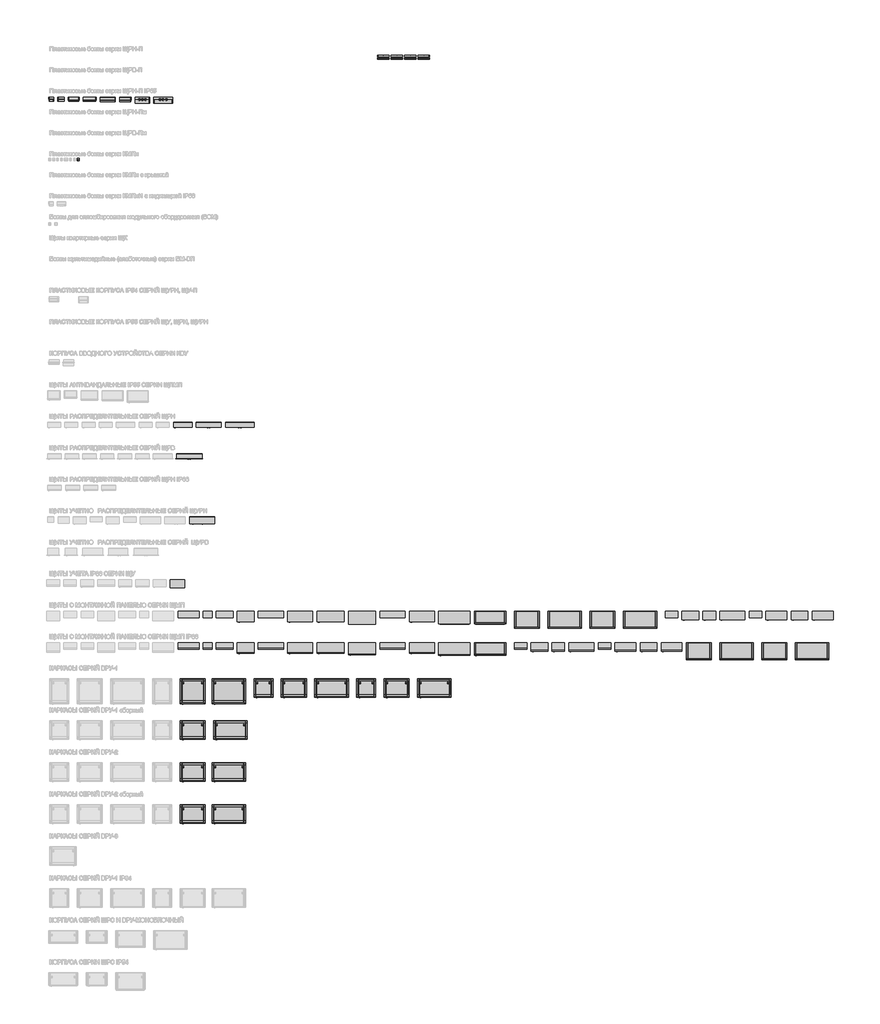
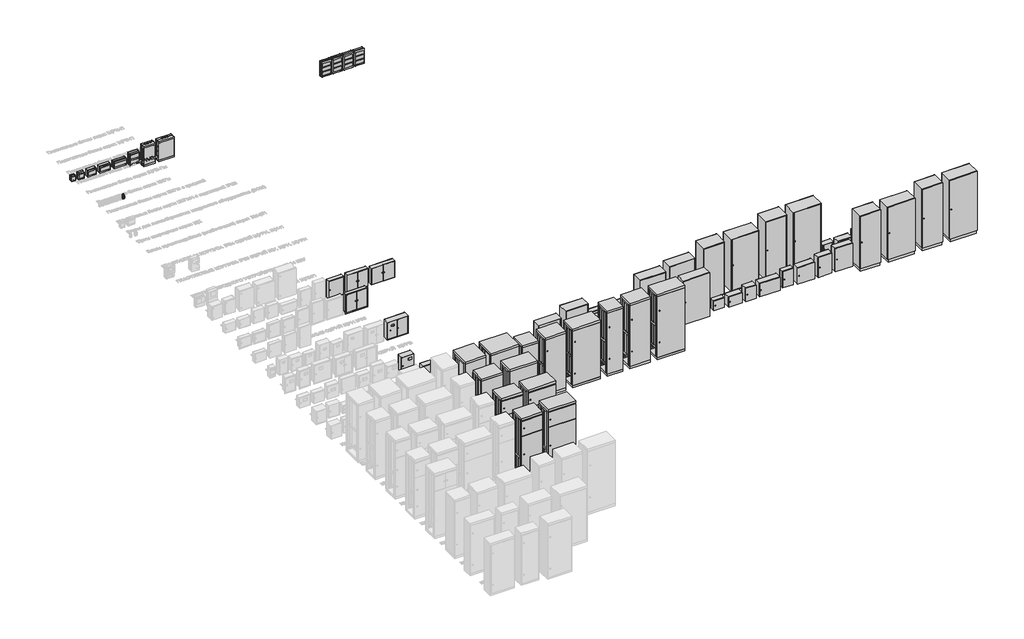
# One storey, part 2 of 25: 81 proxies.
"""IFC4 building model written with IfcOpenShell, lengths in millimetres."""

from ifc_helpers import new_model, si_unit, origin, place, context, project, spatial, transform, mapped, element, save
from components import electrical_equipment_affdbc4a, electrical_equipment_87a8e6b7, electrical_equipment_db0b3651, electrical_equipment_27bbc57b, electrical_equipment_023ecf13, electrical_equipment_e8acea0d, electrical_equipment_999e1e20, electrical_equipment_e3dd529e, electrical_equipment_4f927de0, electrical_equipment_bc0270f2, electrical_equipment_461fbd14, electrical_equipment_4e84e6ac, electrical_equipment_5be1c734, electrical_equipment_68182195, electrical_equipment_46bb506c, electrical_equipment_65a7c867, electrical_equipment_6ca70b5f, electrical_equipment_548c03ec, electrical_equipment_12a4af0d, electrical_equipment_94533aea, electrical_equipment_c0c13337, electrical_equipment_6aa829ec, electrical_equipment_989aeedd, electrical_equipment_f36b6810, electrical_equipment_f44a7fef, electrical_equipment_cb04a2b1, electrical_equipment_87764ce0, electrical_equipment_2b144cbb, electrical_equipment_02008a58, electrical_equipment_f5966138, electrical_equipment_26f1c62e, electrical_equipment_c8e57f9c, electrical_equipment_190d6f64, electrical_equipment_a90ce755, electrical_equipment_6f267fd0, electrical_equipment_063c99c6, electrical_equipment_5025be6f, electrical_equipment_a36ba838, electrical_equipment_4e077a6b, electrical_equipment_c5bccf6a, electrical_equipment_b0966e39, electrical_equipment_ad4c9414, electrical_equipment_0eafc789, electrical_equipment_16379dc4, electrical_equipment_dda69106, electrical_equipment_f1676e8e, electrical_equipment_d7a3c8ac, electrical_equipment_81dbc8a3, electrical_equipment_4ddad07a, electrical_equipment_0ed47aab, electrical_equipment_84ca87c8, electrical_equipment_f4f822a1, electrical_equipment_ed40e2c7, electrical_equipment_3daa919d, electrical_equipment_e6f91f29, electrical_equipment_b855b0b9, electrical_equipment_7cce7357, electrical_equipment_5c7dc840, electrical_equipment_92aeceb9, electrical_equipment_665021a5, electrical_equipment_001f828e, electrical_equipment_2ce05f25, electrical_equipment_1401469c, electrical_equipment_542ff611, electrical_equipment_45d32a1f, electrical_equipment_9a04b312, electrical_equipment_0d211c91, electrical_equipment_934612fc, electrical_equipment_2ab7c5df, electrical_equipment_11ccc84e, electrical_equipment_a8e0ab59, electrical_equipment_fcdb0c0a, electrical_equipment_d48100c6, electrical_equipment_d2c2ee65

model = new_model("IFC4")

# Units and contexts
model_context = context("Model", 3, world=origin())
ifc_project = project(units=[si_unit("LENGTHUNIT", "METRE", prefix="MILLI")], contexts=[model_context])

# Site, building, storey
site = spatial("IfcSite", under=ifc_project)
building = spatial("IfcBuilding", under=site)
storey = spatial("IfcBuildingStorey", under=building, Name="Этаж 01", Elevation=0.0)

# Proxies
placement = place(None, origin())
electrical_equipment_shape = electrical_equipment_affdbc4a(model_context)
element("IfcBuildingElementProxy", 1, Name="ЩРН-П-5_8_IP65 : ЩРН-П-5_IP65", ObjectType="ЩРН-П-5_8_IP65 : ЩРН-П-5_IP65", at=placement, inside=storey, context=model_context, shape_type="MappedRepresentation", body=[
    mapped(electrical_equipment_shape, transform((-19006.3088126, 17436.235284, 0.0), x_axis=(-1.0, 0.0, 0.0), y_axis=(0.0, -1.0, 0.0), z_axis=(0.0, 0.0, 1.0))),
])
electrical_equipment_2_shape = electrical_equipment_87a8e6b7(model_context)
element("IfcBuildingElementProxy", 2, Name="ЩРН-П-5_8_IP65 : ЩРН-П-8_IP65", ObjectType="ЩРН-П-5_8_IP65 : ЩРН-П-8_IP65", at=placement, inside=storey, context=model_context, shape_type="MappedRepresentation", body=[
    mapped(electrical_equipment_2_shape, transform((-18773.8088126, 17436.2788107, 0.0), x_axis=(-1.0, 0.0, 0.0), y_axis=(0.0, -1.0, 0.0), z_axis=(0.0, 0.0, 1.0))),
])
electrical_equipment_3_shape = electrical_equipment_db0b3651(model_context)
element("IfcBuildingElementProxy", 3, Name="ЩРН-П-12_15_IP65 : ЩРН-П-12_IP65", ObjectType="ЩРН-П-12_15_IP65 : ЩРН-П-12_IP65", at=placement, inside=storey, context=model_context, shape_type="MappedRepresentation", body=[
    mapped(electrical_equipment_3_shape, transform((-18472.3088126, 17436.2788107, 0.0), x_axis=(-1.0, 0.0, 0.0), y_axis=(0.0, -1.0, 0.0), z_axis=(0.0, 0.0, 1.0))),
])
electrical_equipment_4_shape = electrical_equipment_27bbc57b(model_context)
element("IfcBuildingElementProxy", 4, Name="ЩРН-П-12_15_IP65 : ЩРН-П-15_IP65", ObjectType="ЩРН-П-12_15_IP65 : ЩРН-П-15_IP65", at=placement, inside=storey, context=model_context, shape_type="MappedRepresentation", body=[
    mapped(electrical_equipment_4_shape, transform((-18094.3088126, 17436.2788107, 0.0), x_axis=(-1.0, 0.0, 0.0), y_axis=(0.0, -1.0, 0.0), z_axis=(0.0, 0.0, 1.0))),
])
electrical_equipment_5_shape = electrical_equipment_023ecf13(model_context)
element("IfcBuildingElementProxy", 5, Name="ЩРН-П-18_24_IP65 : ЩРН-П-18_IP65", ObjectType="ЩРН-П-18_24_IP65 : ЩРН-П-18_IP65", at=placement, inside=storey, context=model_context, shape_type="MappedRepresentation", body=[
    mapped(electrical_equipment_5_shape, transform((-17660.3088126, 17436.2788107, 0.0), x_axis=(-1.0, 0.0, 0.0), y_axis=(0.0, -1.0, 0.0), z_axis=(0.0, 0.0, 1.0))),
])
electrical_equipment_6_shape = electrical_equipment_e8acea0d(model_context)
element("IfcBuildingElementProxy", 6, Name="ЩРН-П-18_24_IP65 : ЩРН-П-24_IP65", ObjectType="ЩРН-П-18_24_IP65 : ЩРН-П-24_IP65", at=placement, inside=storey, context=model_context, shape_type="MappedRepresentation", body=[
    mapped(electrical_equipment_6_shape, transform((-17243.0588126, 17436.2788107, 0.0), x_axis=(-1.0, 0.0, 0.0), y_axis=(0.0, -1.0, 0.0), z_axis=(0.0, 0.0, 1.0))),
])
electrical_equipment_7_shape = electrical_equipment_999e1e20(model_context)
element("IfcBuildingElementProxy", 7, Name="ЩРН-П-36_54_IP65 : ЩРН-П-36_IP65", ObjectType="ЩРН-П-36_54_IP65 : ЩРН-П-36_IP65", at=placement, inside=storey, context=model_context, shape_type="MappedRepresentation", body=[
    mapped(electrical_equipment_7_shape, transform((-16836.8088126, 17436.2788107, 0.0), x_axis=(-1.0, 0.0, 0.0), y_axis=(0.0, -1.0, 0.0), z_axis=(0.0, 0.0, 1.0))),
])
electrical_equipment_8_shape = electrical_equipment_e3dd529e(model_context)
element("IfcBuildingElementProxy", 8, Name="ЩРН-П-36_54_IP65 : ЩРН-П-54_IP65", ObjectType="ЩРН-П-36_54_IP65 : ЩРН-П-54_IP65", at=placement, inside=storey, context=model_context, shape_type="MappedRepresentation", body=[
    mapped(electrical_equipment_8_shape, transform((-16341.8088126, 17436.2788107, 0.0), x_axis=(-1.0, 0.0, 0.0), y_axis=(0.0, -1.0, 0.0), z_axis=(0.0, 0.0, 1.0))),
])
electrical_equipment_9_shape = electrical_equipment_4f927de0(model_context)
element("IfcBuildingElementProxy", 9, Name="ВРУ-1 : ВРУ-1_2000х600х600", ObjectType="ВРУ-1 : ВРУ-1_2000х600х600", at=placement, inside=storey, context=model_context, shape_type="MappedRepresentation", body=[
    mapped(electrical_equipment_9_shape, transform((-15638.0939771, 3586.235284, 0.0), x_axis=(-1.0, 0.0, 0.0), y_axis=(0.0, -1.0, 0.0), z_axis=(0.0, 0.0, 1.0))),
])
electrical_equipment_10_shape = electrical_equipment_bc0270f2(model_context)
element("IfcBuildingElementProxy", 10, Name="ВРУ-1 : ВРУ-1_2000х800х600", ObjectType="ВРУ-1 : ВРУ-1_2000х800х600", at=placement, inside=storey, context=model_context, shape_type="MappedRepresentation", body=[
    mapped(electrical_equipment_10_shape, transform((-14777.2854233, 3586.235284, 0.0), x_axis=(-1.0, 0.0, 0.0), y_axis=(0.0, -1.0, 0.0), z_axis=(0.0, 0.0, 1.0))),
])
electrical_equipment_11_shape = electrical_equipment_461fbd14(model_context)
element("IfcBuildingElementProxy", 11, Name="ВРУ-1 : ВРУ-1_1800х450х450", ObjectType="ВРУ-1 : ВРУ-1_1800х450х450", at=placement, inside=storey, context=model_context, shape_type="MappedRepresentation", body=[
    mapped(electrical_equipment_11_shape, transform((-13952.2786424, 3586.235284, 0.0), x_axis=(-1.0, 0.0, 0.0), y_axis=(0.0, -1.0, 0.0), z_axis=(0.0, 0.0, 1.0))),
])
electrical_equipment_12_shape = electrical_equipment_4e84e6ac(model_context)
element("IfcBuildingElementProxy", 12, Name="ВРУ-1 : ВРУ-1_1800х600х450", ObjectType="ВРУ-1 : ВРУ-1_1800х600х450", at=placement, inside=storey, context=model_context, shape_type="MappedRepresentation", body=[
    mapped(electrical_equipment_12_shape, transform((-13227.2718614, 3586.235284, 0.0), x_axis=(-1.0, 0.0, 0.0), y_axis=(0.0, -1.0, 0.0), z_axis=(0.0, 0.0, 1.0))),
])
electrical_equipment_13_shape = electrical_equipment_5be1c734(model_context)
element("IfcBuildingElementProxy", 13, Name="ВРУ-1 : ВРУ-1_1800х800х450", ObjectType="ВРУ-1 : ВРУ-1_1800х800х450", at=placement, inside=storey, context=model_context, shape_type="MappedRepresentation", body=[
    mapped(electrical_equipment_13_shape, transform((-12327.2650805, 3586.235284, 0.0), x_axis=(-1.0, 0.0, 0.0), y_axis=(0.0, -1.0, 0.0), z_axis=(0.0, 0.0, 1.0))),
])
electrical_equipment_14_shape = electrical_equipment_68182195(model_context)
element("IfcBuildingElementProxy", 14, Name="ВРУ-1 : ВРУ-1_2000х450х450", ObjectType="ВРУ-1 : ВРУ-1_2000х450х450", at=placement, inside=storey, context=model_context, shape_type="MappedRepresentation", body=[
    mapped(electrical_equipment_14_shape, transform((-11502.2582996, 3586.235284, 0.0), x_axis=(-1.0, 0.0, 0.0), y_axis=(0.0, -1.0, 0.0), z_axis=(0.0, 0.0, 1.0))),
])
electrical_equipment_15_shape = electrical_equipment_46bb506c(model_context)
element("IfcBuildingElementProxy", 15, Name="ВРУ-1 : ВРУ-1_2000х600х450", ObjectType="ВРУ-1 : ВРУ-1_2000х600х450", at=placement, inside=storey, context=model_context, shape_type="MappedRepresentation", body=[
    mapped(electrical_equipment_15_shape, transform((-10777.2515187, 3586.235284, 0.0), x_axis=(-1.0, 0.0, 0.0), y_axis=(0.0, -1.0, 0.0), z_axis=(0.0, 0.0, 1.0))),
])
electrical_equipment_16_shape = electrical_equipment_65a7c867(model_context)
element("IfcBuildingElementProxy", 16, Name="ВРУ-1 : ВРУ-1_2000х800х450", ObjectType="ВРУ-1 : ВРУ-1_2000х800х450", at=placement, inside=storey, context=model_context, shape_type="MappedRepresentation", body=[
    mapped(electrical_equipment_16_shape, transform((-9877.2447378, 3586.235284, 0.0), x_axis=(-1.0, 0.0, 0.0), y_axis=(0.0, -1.0, 0.0), z_axis=(0.0, 0.0, 1.0))),
])
element("IfcBuildingElementProxy", 17, Name="ВРУ-1_сборный : ВРУ-1_2000х600х450", ObjectType="ВРУ-1_сборный : ВРУ-1_2000х600х450", at=placement, inside=storey, context=model_context, shape_type="MappedRepresentation", body=[
    mapped(electrical_equipment_15_shape, transform((-15638.0939771, 2586.235284, 0.0), x_axis=(-1.0, 0.0, 0.0), y_axis=(0.0, -1.0, 0.0), z_axis=(0.0, 0.0, 1.0))),
])
element("IfcBuildingElementProxy", 18, Name="ВРУ-1_сборный : ВРУ-1_2000х800х450", ObjectType="ВРУ-1_сборный : ВРУ-1_2000х800х450", at=placement, inside=storey, context=model_context, shape_type="MappedRepresentation", body=[
    mapped(electrical_equipment_16_shape, transform((-14738.0871962, 2586.235284, 0.0), x_axis=(-1.0, 0.0, 0.0), y_axis=(0.0, -1.0, 0.0), z_axis=(0.0, 0.0, 1.0))),
])
electrical_equipment_17_shape = electrical_equipment_6ca70b5f(model_context)
element("IfcBuildingElementProxy", 19, Name="ВРУ-2 : ВРУ-2_2000х600х450", ObjectType="ВРУ-2 : ВРУ-2_2000х600х450", at=placement, inside=storey, context=model_context, shape_type="MappedRepresentation", body=[
    mapped(electrical_equipment_17_shape, transform((-15638.0939771, 1586.251492, 0.0), x_axis=(-1.0, 0.0, 0.0), y_axis=(0.0, -1.0, 0.0), z_axis=(0.0, 0.0, 1.0))),
])
electrical_equipment_18_shape = electrical_equipment_548c03ec(model_context)
element("IfcBuildingElementProxy", 20, Name="ВРУ-2 : ВРУ-2_2000х800х450", ObjectType="ВРУ-2 : ВРУ-2_2000х800х450", at=placement, inside=storey, context=model_context, shape_type="MappedRepresentation", body=[
    mapped(electrical_equipment_18_shape, transform((-14777.2854233, 1586.251492, 0.0), x_axis=(-1.0, 0.0, 0.0), y_axis=(0.0, -1.0, 0.0), z_axis=(0.0, 0.0, 1.0))),
])
element("IfcBuildingElementProxy", 21, Name="ВРУ-2_сборный : ВРУ-2 сборный_2000х600х450", ObjectType="ВРУ-2_сборный : ВРУ-2 сборный_2000х600х450", at=placement, inside=storey, context=model_context, shape_type="MappedRepresentation", body=[
    mapped(electrical_equipment_17_shape, transform((-15638.0939771, 586.235284, 0.0), x_axis=(-1.0, 0.0, 0.0), y_axis=(0.0, -1.0, 0.0), z_axis=(0.0, 0.0, 1.0))),
])
element("IfcBuildingElementProxy", 22, Name="ВРУ-2_сборный : ВРУ-2 сборный_2000х800х450", ObjectType="ВРУ-2_сборный : ВРУ-2 сборный_2000х800х450", at=placement, inside=storey, context=model_context, shape_type="MappedRepresentation", body=[
    mapped(electrical_equipment_18_shape, transform((-14777.2854233, 586.235284, 0.0), x_axis=(-1.0, 0.0, 0.0), y_axis=(0.0, -1.0, 0.0), z_axis=(0.0, 0.0, 1.0))),
])
electrical_equipment_19_shape = electrical_equipment_12a4af0d(model_context)
element("IfcBuildingElementProxy", 23, Name="ЩМП : ЩМП-3-1_650х500х150", ObjectType="ЩМП : ЩМП-3-1_650х500х150", at=placement, inside=storey, context=model_context, shape_type="MappedRepresentation", body=[
    mapped(electrical_equipment_19_shape, transform((-15735.3755004, 5186.235284, 0.0), x_axis=(-1.0, 0.0, 0.0), y_axis=(0.0, -1.0, 0.0), z_axis=(0.0, 0.0, 1.0))),
])
electrical_equipment_20_shape = electrical_equipment_94533aea(model_context)
element("IfcBuildingElementProxy", 24, Name="ЩМП : ЩМП-4.2.1-0_400х210х150", ObjectType="ЩМП : ЩМП-4.2.1-0_400х210х150", at=placement, inside=storey, context=model_context, shape_type="MappedRepresentation", body=[
    mapped(electrical_equipment_20_shape, transform((-15280.3755004, 5186.235284, 0.0), x_axis=(-1.0, 0.0, 0.0), y_axis=(0.0, -1.0, 0.0), z_axis=(0.0, 0.0, 1.0))),
])
electrical_equipment_21_shape = electrical_equipment_c0c13337(model_context)
element("IfcBuildingElementProxy", 25, Name="ЩМП : ЩМП-4.4.1-0_400х400х150", ObjectType="ЩМП : ЩМП-4.4.1-0_400х400х150", at=placement, inside=storey, context=model_context, shape_type="MappedRepresentation", body=[
    mapped(electrical_equipment_21_shape, transform((-14875.3755004, 5186.235284, 0.0), x_axis=(-1.0, 0.0, 0.0), y_axis=(0.0, -1.0, 0.0), z_axis=(0.0, 0.0, 1.0))),
])
electrical_equipment_22_shape = electrical_equipment_6aa829ec(model_context)
element("IfcBuildingElementProxy", 26, Name="ЩМП : ЩМП-4.4.2-0_400х400х250", ObjectType="ЩМП : ЩМП-4.4.2-0_400х400х250", at=placement, inside=storey, context=model_context, shape_type="MappedRepresentation", body=[
    mapped(electrical_equipment_22_shape, transform((-14375.3755004, 5186.235284, 0.0), x_axis=(-1.0, 0.0, 0.0), y_axis=(0.0, -1.0, 0.0), z_axis=(0.0, 0.0, 1.0))),
])
electrical_equipment_23_shape = electrical_equipment_989aeedd(model_context)
element("IfcBuildingElementProxy", 27, Name="ЩМП : ЩМП-4.6.1-0_400х600х150", ObjectType="ЩМП : ЩМП-4.6.1-0_400х600х150", at=placement, inside=storey, context=model_context, shape_type="MappedRepresentation", body=[
    mapped(electrical_equipment_23_shape, transform((-13775.3755004, 5186.235284, 0.0), x_axis=(-1.0, 0.0, 0.0), y_axis=(0.0, -1.0, 0.0), z_axis=(0.0, 0.0, 1.0))),
])
electrical_equipment_24_shape = electrical_equipment_f36b6810(model_context)
element("IfcBuildingElementProxy", 28, Name="ЩМП : ЩМП-4.6.2-0_400х600х250", ObjectType="ЩМП : ЩМП-4.6.2-0_400х600х250", at=placement, inside=storey, context=model_context, shape_type="MappedRepresentation", body=[
    mapped(electrical_equipment_24_shape, transform((-13075.3755004, 5186.235284, 0.0), x_axis=(-1.0, 0.0, 0.0), y_axis=(0.0, -1.0, 0.0), z_axis=(0.0, 0.0, 1.0))),
])
electrical_equipment_25_shape = electrical_equipment_f44a7fef(model_context)
element("IfcBuildingElementProxy", 29, Name="ЩМП : ЩМП-4-0_800х650х250", ObjectType="ЩМП : ЩМП-4-0_800х650х250", at=placement, inside=storey, context=model_context, shape_type="MappedRepresentation", body=[
    mapped(electrical_equipment_25_shape, transform((-12350.3755004, 5186.235284, 0.0), x_axis=(-1.0, 0.0, 0.0), y_axis=(0.0, -1.0, 0.0), z_axis=(0.0, 0.0, 1.0))),
])
electrical_equipment_26_shape = electrical_equipment_cb04a2b1(model_context)
element("IfcBuildingElementProxy", 30, Name="ЩМП : ЩМП-5-0_1000х650х300", ObjectType="ЩМП : ЩМП-5-0_1000х650х300", at=placement, inside=storey, context=model_context, shape_type="MappedRepresentation", body=[
    mapped(electrical_equipment_26_shape, transform((-11600.3755004, 5186.235284, 0.0), x_axis=(-1.0, 0.0, 0.0), y_axis=(0.0, -1.0, 0.0), z_axis=(0.0, 0.0, 1.0))),
])
electrical_equipment_27_shape = electrical_equipment_87764ce0(model_context)
element("IfcBuildingElementProxy", 31, Name="ЩМП : ЩМП-6.6.1-0_600х600х150", ObjectType="ЩМП : ЩМП-6.6.1-0_600х600х150", at=placement, inside=storey, context=model_context, shape_type="MappedRepresentation", body=[
    mapped(electrical_equipment_27_shape, transform((-10875.3755004, 5186.235284, 0.0), x_axis=(-1.0, 0.0, 0.0), y_axis=(0.0, -1.0, 0.0), z_axis=(0.0, 0.0, 1.0))),
])
electrical_equipment_28_shape = electrical_equipment_2b144cbb(model_context)
element("IfcBuildingElementProxy", 32, Name="ЩМП : ЩМП-6.6.2-0_600х600х250", ObjectType="ЩМП : ЩМП-6.6.2-0_600х600х250", at=placement, inside=storey, context=model_context, shape_type="MappedRepresentation", body=[
    mapped(electrical_equipment_28_shape, transform((-10175.3755004, 5186.235284, 0.0), x_axis=(-1.0, 0.0, 0.0), y_axis=(0.0, -1.0, 0.0), z_axis=(0.0, 0.0, 1.0))),
])
electrical_equipment_29_shape = electrical_equipment_02008a58(model_context)
element("IfcBuildingElementProxy", 33, Name="ЩМП : ЩМП-6-0_1200х750х300", ObjectType="ЩМП : ЩМП-6-0_1200х750х300", at=placement, inside=storey, context=model_context, shape_type="MappedRepresentation", body=[
    mapped(electrical_equipment_29_shape, transform((-9400.3755004, 5186.235284, 0.0), x_axis=(-1.0, 0.0, 0.0), y_axis=(0.0, -1.0, 0.0), z_axis=(0.0, 0.0, 1.0))),
])
electrical_equipment_30_shape = electrical_equipment_f5966138(model_context)
element("IfcBuildingElementProxy", 34, Name="ЩМП : ЩМП-7-0_1320х750х300", ObjectType="ЩМП : ЩМП-7-0_1320х750х300", at=placement, inside=storey, context=model_context, shape_type="MappedRepresentation", body=[
    mapped(electrical_equipment_30_shape, transform((-8550.3755004, 5186.235284, 0.0), x_axis=(-1.0, 0.0, 0.0), y_axis=(0.0, -1.0, 0.0), z_axis=(0.0, 0.0, 1.0))),
])
electrical_equipment_31_shape = electrical_equipment_26f1c62e(model_context)
element("IfcBuildingElementProxy", 35, Name="ЩМП : ЩМП-16.6.4-0_1600х600х400", ObjectType="ЩМП : ЩМП-16.6.4-0_1600х600х400", at=placement, inside=storey, context=model_context, shape_type="MappedRepresentation", body=[
    mapped(electrical_equipment_31_shape, transform((-7675.3755004, 5186.235284, 0.0), x_axis=(-1.0, 0.0, 0.0), y_axis=(0.0, -1.0, 0.0), z_axis=(0.0, 0.0, 1.0))),
])
electrical_equipment_32_shape = electrical_equipment_c8e57f9c(model_context)
element("IfcBuildingElementProxy", 36, Name="ЩМП : ЩМП-16.8.4-0_1600х800х400", ObjectType="ЩМП : ЩМП-16.8.4-0_1600х800х400", at=placement, inside=storey, context=model_context, shape_type="MappedRepresentation", body=[
    mapped(electrical_equipment_32_shape, transform((-6775.3755004, 5186.235284, 0.0), x_axis=(-1.0, 0.0, 0.0), y_axis=(0.0, -1.0, 0.0), z_axis=(0.0, 0.0, 1.0))),
])
electrical_equipment_33_shape = electrical_equipment_190d6f64(model_context)
element("IfcBuildingElementProxy", 37, Name="ЩМП : ЩМП-18.6.4-0_1800х600х400", ObjectType="ЩМП : ЩМП-18.6.4-0_1800х600х400", at=placement, inside=storey, context=model_context, shape_type="MappedRepresentation", body=[
    mapped(electrical_equipment_33_shape, transform((-5875.3755004, 5186.235284, 0.0), x_axis=(-1.0, 0.0, 0.0), y_axis=(0.0, -1.0, 0.0), z_axis=(0.0, 0.0, 1.0))),
])
electrical_equipment_34_shape = electrical_equipment_a90ce755(model_context)
element("IfcBuildingElementProxy", 38, Name="ЩМП : ЩМП-18.8.4-0_1800х800х400", ObjectType="ЩМП : ЩМП-18.8.4-0_1800х800х400", at=placement, inside=storey, context=model_context, shape_type="MappedRepresentation", body=[
    mapped(electrical_equipment_34_shape, transform((-4975.3755004, 5186.235284, 0.0), x_axis=(-1.0, 0.0, 0.0), y_axis=(0.0, -1.0, 0.0), z_axis=(0.0, 0.0, 1.0))),
])
electrical_equipment_35_shape = electrical_equipment_6f267fd0(model_context)
element("IfcBuildingElementProxy", 39, Name="ЩМП : ЩМП-3.3.15_300х300х150", ObjectType="ЩМП : ЩМП-3.3.15_300х300х150", at=placement, inside=storey, context=model_context, shape_type="MappedRepresentation", body=[
    mapped(electrical_equipment_35_shape, transform((-4225.3755004, 5186.235284, 0.0), x_axis=(-1.0, 0.0, 0.0), y_axis=(0.0, -1.0, 0.0), z_axis=(0.0, 0.0, 1.0))),
])
electrical_equipment_36_shape = electrical_equipment_063c99c6(model_context)
element("IfcBuildingElementProxy", 40, Name="ЩМП : ЩМП-3.4.2-0_300х400х200", ObjectType="ЩМП : ЩМП-3.4.2-0_300х400х200", at=placement, inside=storey, context=model_context, shape_type="MappedRepresentation", body=[
    mapped(electrical_equipment_36_shape, transform((-3775.3755004, 5186.235284, 0.0), x_axis=(-1.0, 0.0, 0.0), y_axis=(0.0, -1.0, 0.0), z_axis=(0.0, 0.0, 1.0))),
])
electrical_equipment_37_shape = electrical_equipment_5025be6f(model_context)
element("IfcBuildingElementProxy", 41, Name="ЩМП : ЩМП-4.3.2-0_400х300х200", ObjectType="ЩМП : ЩМП-4.3.2-0_400х300х200", at=placement, inside=storey, context=model_context, shape_type="MappedRepresentation", body=[
    mapped(electrical_equipment_37_shape, transform((-3325.3755004, 5186.235284, 0.0), x_axis=(-1.0, 0.0, 0.0), y_axis=(0.0, -1.0, 0.0), z_axis=(0.0, 0.0, 1.0))),
])
electrical_equipment_38_shape = electrical_equipment_a36ba838(model_context)
element("IfcBuildingElementProxy", 42, Name="ЩМП : ЩМП-4.6.2_400х600х200", ObjectType="ЩМП : ЩМП-4.6.2_400х600х200", at=placement, inside=storey, context=model_context, shape_type="MappedRepresentation", body=[
    mapped(electrical_equipment_38_shape, transform((-2775.3755004, 5186.235284, 0.0), x_axis=(-1.0, 0.0, 0.0), y_axis=(0.0, -1.0, 0.0), z_axis=(0.0, 0.0, 1.0))),
])
electrical_equipment_39_shape = electrical_equipment_4e077a6b(model_context)
element("IfcBuildingElementProxy", 43, Name="ЩМП : ЩМП-5.3.15_500х300х150", ObjectType="ЩМП : ЩМП-5.3.15_500х300х150", at=placement, inside=storey, context=model_context, shape_type="MappedRepresentation", body=[
    mapped(electrical_equipment_39_shape, transform((-2225.3755004, 5186.235284, 0.0), x_axis=(-1.0, 0.0, 0.0), y_axis=(0.0, -1.0, 0.0), z_axis=(0.0, 0.0, 1.0))),
])
electrical_equipment_40_shape = electrical_equipment_c5bccf6a(model_context)
element("IfcBuildingElementProxy", 44, Name="ЩМП : ЩМП-5.5.2_500х500х200", ObjectType="ЩМП : ЩМП-5.5.2_500х500х200", at=placement, inside=storey, context=model_context, shape_type="MappedRepresentation", body=[
    mapped(electrical_equipment_40_shape, transform((-1725.3755004, 5186.235284, 0.0), x_axis=(-1.0, 0.0, 0.0), y_axis=(0.0, -1.0, 0.0), z_axis=(0.0, 0.0, 1.0))),
])
electrical_equipment_41_shape = electrical_equipment_b0966e39(model_context)
element("IfcBuildingElementProxy", 45, Name="ЩМП : ЩМП-6.4.2_600х400х200", ObjectType="ЩМП : ЩМП-6.4.2_600х400х200", at=placement, inside=storey, context=model_context, shape_type="MappedRepresentation", body=[
    mapped(electrical_equipment_41_shape, transform((-1175.3755004, 5186.235284, 0.0), x_axis=(-1.0, 0.0, 0.0), y_axis=(0.0, -1.0, 0.0), z_axis=(0.0, 0.0, 1.0))),
])
electrical_equipment_42_shape = electrical_equipment_ad4c9414(model_context)
element("IfcBuildingElementProxy", 46, Name="ЩМП : ЩМП-7.5.2_700х500х200", ObjectType="ЩМП : ЩМП-7.5.2_700х500х200", at=placement, inside=storey, context=model_context, shape_type="MappedRepresentation", body=[
    mapped(electrical_equipment_42_shape, transform((-625.3755004, 5186.235284, 0.0), x_axis=(-1.0, 0.0, 0.0), y_axis=(0.0, -1.0, 0.0), z_axis=(0.0, 0.0, 1.0))),
])
electrical_equipment_43_shape = electrical_equipment_0eafc789(model_context)
element("IfcBuildingElementProxy", 47, Name="ЩМП_IP65 : ЩМП-3-1_650х500х150", ObjectType="ЩМП_IP65 : ЩМП-3-1_650х500х150", at=placement, inside=storey, context=model_context, shape_type="MappedRepresentation", body=[
    mapped(electrical_equipment_43_shape, transform((-15735.3755004, 4436.235284, 0.0), x_axis=(-1.0, 0.0, 0.0), y_axis=(0.0, -1.0, 0.0), z_axis=(0.0, 0.0, 1.0))),
])
electrical_equipment_44_shape = electrical_equipment_16379dc4(model_context)
element("IfcBuildingElementProxy", 48, Name="ЩМП_IP65 : ЩМП-4.2.1-0_400х210х150", ObjectType="ЩМП_IP65 : ЩМП-4.2.1-0_400х210х150", at=placement, inside=storey, context=model_context, shape_type="MappedRepresentation", body=[
    mapped(electrical_equipment_44_shape, transform((-15280.3755004, 4436.235284, 0.0), x_axis=(-1.0, 0.0, 0.0), y_axis=(0.0, -1.0, 0.0), z_axis=(0.0, 0.0, 1.0))),
])
electrical_equipment_45_shape = electrical_equipment_dda69106(model_context)
element("IfcBuildingElementProxy", 49, Name="ЩМП_IP65 : ЩМП-4.4.1-0_400х400х150", ObjectType="ЩМП_IP65 : ЩМП-4.4.1-0_400х400х150", at=placement, inside=storey, context=model_context, shape_type="MappedRepresentation", body=[
    mapped(electrical_equipment_45_shape, transform((-14875.3755004, 4436.235284, 0.0), x_axis=(-1.0, 0.0, 0.0), y_axis=(0.0, -1.0, 0.0), z_axis=(0.0, 0.0, 1.0))),
])
electrical_equipment_46_shape = electrical_equipment_f1676e8e(model_context)
element("IfcBuildingElementProxy", 50, Name="ЩМП_IP65 : ЩМП-4.4.2-0_400х400х250", ObjectType="ЩМП_IP65 : ЩМП-4.4.2-0_400х400х250", at=placement, inside=storey, context=model_context, shape_type="MappedRepresentation", body=[
    mapped(electrical_equipment_46_shape, transform((-14375.3755004, 4436.235284, 0.0), x_axis=(-1.0, 0.0, 0.0), y_axis=(0.0, -1.0, 0.0), z_axis=(0.0, 0.0, 1.0))),
])
electrical_equipment_47_shape = electrical_equipment_d7a3c8ac(model_context)
element("IfcBuildingElementProxy", 51, Name="ЩМП_IP65 : ЩМП-4.6.1-0_400х600х150", ObjectType="ЩМП_IP65 : ЩМП-4.6.1-0_400х600х150", at=placement, inside=storey, context=model_context, shape_type="MappedRepresentation", body=[
    mapped(electrical_equipment_47_shape, transform((-13775.3755004, 4436.235284, 0.0), x_axis=(-1.0, 0.0, 0.0), y_axis=(0.0, -1.0, 0.0), z_axis=(0.0, 0.0, 1.0))),
])
electrical_equipment_48_shape = electrical_equipment_81dbc8a3(model_context)
element("IfcBuildingElementProxy", 52, Name="ЩМП_IP65 : ЩМП-4.6.2-0_400х600х250", ObjectType="ЩМП_IP65 : ЩМП-4.6.2-0_400х600х250", at=placement, inside=storey, context=model_context, shape_type="MappedRepresentation", body=[
    mapped(electrical_equipment_48_shape, transform((-13075.3755004, 4436.235284, 0.0), x_axis=(-1.0, 0.0, 0.0), y_axis=(0.0, -1.0, 0.0), z_axis=(0.0, 0.0, 1.0))),
])
electrical_equipment_49_shape = electrical_equipment_4ddad07a(model_context)
element("IfcBuildingElementProxy", 53, Name="ЩМП_IP65 : ЩМП-4-0_800х650х250", ObjectType="ЩМП_IP65 : ЩМП-4-0_800х650х250", at=placement, inside=storey, context=model_context, shape_type="MappedRepresentation", body=[
    mapped(electrical_equipment_49_shape, transform((-12350.3755004, 4436.235284, 0.0), x_axis=(-1.0, 0.0, 0.0), y_axis=(0.0, -1.0, 0.0), z_axis=(0.0, 0.0, 1.0))),
])
electrical_equipment_50_shape = electrical_equipment_0ed47aab(model_context)
element("IfcBuildingElementProxy", 54, Name="ЩМП_IP65 : ЩМП-5-0_1000х650х285", ObjectType="ЩМП_IP65 : ЩМП-5-0_1000х650х285", at=placement, inside=storey, context=model_context, shape_type="MappedRepresentation", body=[
    mapped(electrical_equipment_50_shape, transform((-11600.3755004, 4436.235284, 0.0), x_axis=(-1.0, 0.0, 0.0), y_axis=(0.0, -1.0, 0.0), z_axis=(0.0, 0.0, 1.0))),
])
electrical_equipment_51_shape = electrical_equipment_84ca87c8(model_context)
element("IfcBuildingElementProxy", 55, Name="ЩМП_IP65 : ЩМП-6.6.1-0_600х600х150", ObjectType="ЩМП_IP65 : ЩМП-6.6.1-0_600х600х150", at=placement, inside=storey, context=model_context, shape_type="MappedRepresentation", body=[
    mapped(electrical_equipment_51_shape, transform((-10875.3755004, 4436.235284, 0.0), x_axis=(-1.0, 0.0, 0.0), y_axis=(0.0, -1.0, 0.0), z_axis=(0.0, 0.0, 1.0))),
])
electrical_equipment_52_shape = electrical_equipment_f4f822a1(model_context)
element("IfcBuildingElementProxy", 56, Name="ЩМП_IP65 : ЩМП-6.6.2-0_600х600х250", ObjectType="ЩМП_IP65 : ЩМП-6.6.2-0_600х600х250", at=placement, inside=storey, context=model_context, shape_type="MappedRepresentation", body=[
    mapped(electrical_equipment_52_shape, transform((-10175.3755004, 4436.235284, 0.0), x_axis=(-1.0, 0.0, 0.0), y_axis=(0.0, -1.0, 0.0), z_axis=(0.0, 0.0, 1.0))),
])
electrical_equipment_53_shape = electrical_equipment_ed40e2c7(model_context)
element("IfcBuildingElementProxy", 57, Name="ЩМП_IP65 : ЩМП-6-0_1200х750х300", ObjectType="ЩМП_IP65 : ЩМП-6-0_1200х750х300", at=placement, inside=storey, context=model_context, shape_type="MappedRepresentation", body=[
    mapped(electrical_equipment_53_shape, transform((-9400.3755004, 4436.235284, 0.0), x_axis=(-1.0, 0.0, 0.0), y_axis=(0.0, -1.0, 0.0), z_axis=(0.0, 0.0, 1.0))),
])
electrical_equipment_54_shape = electrical_equipment_3daa919d(model_context)
element("IfcBuildingElementProxy", 58, Name="ЩМП_IP65 : ЩМП-7-0_1320х750х300", ObjectType="ЩМП_IP65 : ЩМП-7-0_1320х750х300", at=placement, inside=storey, context=model_context, shape_type="MappedRepresentation", body=[
    mapped(electrical_equipment_54_shape, transform((-8550.3755004, 4436.235284, 0.0), x_axis=(-1.0, 0.0, 0.0), y_axis=(0.0, -1.0, 0.0), z_axis=(0.0, 0.0, 1.0))),
])
electrical_equipment_55_shape = electrical_equipment_e6f91f29(model_context)
element("IfcBuildingElementProxy", 59, Name="ЩМП_IP65 : ЩМП-16.6.4-0_1600х600х400", ObjectType="ЩМП_IP65 : ЩМП-16.6.4-0_1600х600х400", at=placement, inside=storey, context=model_context, shape_type="MappedRepresentation", body=[
    mapped(electrical_equipment_55_shape, transform((-3575.37211, 4436.235284, 0.0), x_axis=(-1.0, 0.0, 0.0), y_axis=(0.0, -1.0, 0.0), z_axis=(0.0, 0.0, 1.0))),
])
electrical_equipment_56_shape = electrical_equipment_b855b0b9(model_context)
element("IfcBuildingElementProxy", 60, Name="ЩМП_IP65 : ЩМП-16.8.4-0_1600х800х400", ObjectType="ЩМП_IP65 : ЩМП-16.8.4-0_1600х800х400", at=placement, inside=storey, context=model_context, shape_type="MappedRepresentation", body=[
    mapped(electrical_equipment_56_shape, transform((-2675.37211, 4436.235284, 0.0), x_axis=(-1.0, 0.0, 0.0), y_axis=(0.0, -1.0, 0.0), z_axis=(0.0, 0.0, 1.0))),
])
electrical_equipment_57_shape = electrical_equipment_7cce7357(model_context)
element("IfcBuildingElementProxy", 61, Name="ЩМП_IP65 : ЩМП-18.6.4-0_1800х600х400", ObjectType="ЩМП_IP65 : ЩМП-18.6.4-0_1800х600х400", at=placement, inside=storey, context=model_context, shape_type="MappedRepresentation", body=[
    mapped(electrical_equipment_57_shape, transform((-1775.37211, 4436.235284, 0.0), x_axis=(-1.0, 0.0, 0.0), y_axis=(0.0, -1.0, 0.0), z_axis=(0.0, 0.0, 1.0))),
])
electrical_equipment_58_shape = electrical_equipment_5c7dc840(model_context)
element("IfcBuildingElementProxy", 62, Name="ЩМП_IP65 : ЩМП-18.8.4-0_1800х800х400", ObjectType="ЩМП_IP65 : ЩМП-18.8.4-0_1800х800х400", at=placement, inside=storey, context=model_context, shape_type="MappedRepresentation", body=[
    mapped(electrical_equipment_58_shape, transform((-875.37211, 4436.235284, 0.0), x_axis=(-1.0, 0.0, 0.0), y_axis=(0.0, -1.0, 0.0), z_axis=(0.0, 0.0, 1.0))),
])
electrical_equipment_59_shape = electrical_equipment_92aeceb9(model_context)
element("IfcBuildingElementProxy", 63, Name="ЩМП_IP65 : ЩМП-3.3.15_300х300х150", ObjectType="ЩМП_IP65 : ЩМП-3.3.15_300х300х150", at=placement, inside=storey, context=model_context, shape_type="MappedRepresentation", body=[
    mapped(electrical_equipment_59_shape, transform((-7825.3755004, 4436.235284, 0.0), x_axis=(-1.0, 0.0, 0.0), y_axis=(0.0, -1.0, 0.0), z_axis=(0.0, 0.0, 1.0))),
])
electrical_equipment_60_shape = electrical_equipment_665021a5(model_context)
element("IfcBuildingElementProxy", 64, Name="ЩМП_IP65 : ЩМП-3.4.2-0_300х400х200", ObjectType="ЩМП_IP65 : ЩМП-3.4.2-0_300х400х200", at=placement, inside=storey, context=model_context, shape_type="MappedRepresentation", body=[
    mapped(electrical_equipment_60_shape, transform((-7375.3755004, 4436.235284, 0.0), x_axis=(-1.0, 0.0, 0.0), y_axis=(0.0, -1.0, 0.0), z_axis=(0.0, 0.0, 1.0))),
])
electrical_equipment_61_shape = electrical_equipment_001f828e(model_context)
element("IfcBuildingElementProxy", 65, Name="ЩМП_IP65 : ЩМП-4.3.2-0_400х300х200", ObjectType="ЩМП_IP65 : ЩМП-4.3.2-0_400х300х200", at=placement, inside=storey, context=model_context, shape_type="MappedRepresentation", body=[
    mapped(electrical_equipment_61_shape, transform((-6925.3755004, 4436.235284, 0.0), x_axis=(-1.0, 0.0, 0.0), y_axis=(0.0, -1.0, 0.0), z_axis=(0.0, 0.0, 1.0))),
])
electrical_equipment_62_shape = electrical_equipment_2ce05f25(model_context)
element("IfcBuildingElementProxy", 66, Name="ЩМП_IP65 : ЩМП-4.6.2_400х600х200", ObjectType="ЩМП_IP65 : ЩМП-4.6.2_400х600х200", at=placement, inside=storey, context=model_context, shape_type="MappedRepresentation", body=[
    mapped(electrical_equipment_62_shape, transform((-6375.3755004, 4436.235284, 0.0), x_axis=(-1.0, 0.0, 0.0), y_axis=(0.0, -1.0, 0.0), z_axis=(0.0, 0.0, 1.0))),
])
electrical_equipment_63_shape = electrical_equipment_1401469c(model_context)
element("IfcBuildingElementProxy", 67, Name="ЩМП_IP65 : ЩМП-5.3.15_500х300х150", ObjectType="ЩМП_IP65 : ЩМП-5.3.15_500х300х150", at=placement, inside=storey, context=model_context, shape_type="MappedRepresentation", body=[
    mapped(electrical_equipment_63_shape, transform((-5825.3755004, 4436.235284, 0.0), x_axis=(-1.0, 0.0, 0.0), y_axis=(0.0, -1.0, 0.0), z_axis=(0.0, 0.0, 1.0))),
])
electrical_equipment_64_shape = electrical_equipment_542ff611(model_context)
element("IfcBuildingElementProxy", 68, Name="ЩМП_IP65 : ЩМП-5.5.2_500х500х200", ObjectType="ЩМП_IP65 : ЩМП-5.5.2_500х500х200", at=placement, inside=storey, context=model_context, shape_type="MappedRepresentation", body=[
    mapped(electrical_equipment_64_shape, transform((-5325.3755004, 4436.235284, 0.0), x_axis=(-1.0, 0.0, 0.0), y_axis=(0.0, -1.0, 0.0), z_axis=(0.0, 0.0, 1.0))),
])
electrical_equipment_65_shape = electrical_equipment_45d32a1f(model_context)
element("IfcBuildingElementProxy", 69, Name="ЩМП_IP65 : ЩМП-6.4.2_600х400х200", ObjectType="ЩМП_IP65 : ЩМП-6.4.2_600х400х200", at=placement, inside=storey, context=model_context, shape_type="MappedRepresentation", body=[
    mapped(electrical_equipment_65_shape, transform((-4775.3755004, 4436.235284, 0.0), x_axis=(-1.0, 0.0, 0.0), y_axis=(0.0, -1.0, 0.0), z_axis=(0.0, 0.0, 1.0))),
])
electrical_equipment_66_shape = electrical_equipment_9a04b312(model_context)
element("IfcBuildingElementProxy", 70, Name="ЩМП_IP65 : ЩМП-7.5.2_700х500х200", ObjectType="ЩМП_IP65 : ЩМП-7.5.2_700х500х200", at=placement, inside=storey, context=model_context, shape_type="MappedRepresentation", body=[
    mapped(electrical_equipment_66_shape, transform((-4225.3755004, 4436.235284, 0.0), x_axis=(-1.0, 0.0, 0.0), y_axis=(0.0, -1.0, 0.0), z_axis=(0.0, 0.0, 1.0))),
])
electrical_equipment_67_shape = electrical_equipment_0d211c91(model_context)
element("IfcBuildingElementProxy", 71, Name="ЩРВ_72 : ЩРВ-72", ObjectType="ЩРВ_72 : ЩРВ-72", at=placement, inside=storey, context=model_context, shape_type="MappedRepresentation", body=[
    mapped(electrical_equipment_67_shape, transform((-15720.3755004, 8936.235284, 0.0), x_axis=(-1.0, 0.0, 0.0), y_axis=(0.0, -1.0, 0.0), z_axis=(0.0, 0.0, 1.0))),
])
electrical_equipment_68_shape = electrical_equipment_934612fc(model_context)
element("IfcBuildingElementProxy", 72, Name="КМПн-1_4 : КМПн-1/4 инд.штрихкод_белый", ObjectType="КМПн-1_4 : КМПн-1/4 инд.штрихкод_белый", at=placement, inside=storey, context=model_context, shape_type="MappedRepresentation", body=[
    mapped(electrical_equipment_68_shape, transform((-18363.8088126, 15979.3852498, 0.0), x_axis=(-1.0, 0.0, 0.0), y_axis=(0.0, -1.0, 0.0), z_axis=(0.0, 0.0, 1.0))),
])
electrical_equipment_69_shape = electrical_equipment_2ab7c5df(model_context)
element("IfcBuildingElementProxy", 73, Name="ЩРН_90 : ЩРН-90", ObjectType="ЩРН_90 : ЩРН-90", at=placement, inside=storey, context=model_context, shape_type="MappedRepresentation", body=[
    mapped(electrical_equipment_69_shape, transform((-14515.3788909, 9686.235284, 0.0), x_axis=(-1.0, 0.0, 0.0), y_axis=(0.0, -1.0, 0.0), z_axis=(0.0, 0.0, 1.0))),
])
electrical_equipment_70_shape = electrical_equipment_11ccc84e(model_context)
element("IfcBuildingElementProxy", 74, Name="ЩУ-3ф_1-0-12_с опломбировкой_IP66 : ЩУ-3ф/1-0-12 с опломбировкой счетчика_IP66", ObjectType="ЩУ-3ф_1-0-12_с опломбировкой_IP66 : ЩУ-3ф/1-0-12 с опломбировкой счетчика_IP66", at=placement, inside=storey, context=model_context, shape_type="MappedRepresentation", body=[
    mapped(electrical_equipment_70_shape, transform((-15996.8687195, 5936.235284, 0.0), x_axis=(-1.0, 0.0, 0.0), y_axis=(0.0, -1.0, 0.0), z_axis=(0.0, 0.0, 1.0))),
])
electrical_equipment_71_shape = electrical_equipment_a8e0ab59(model_context)
element("IfcBuildingElementProxy", 75, Name="ЩУРН-3_48 : ЩУРН-3/48", ObjectType="ЩУРН-3_48 : ЩУРН-3/48", at=placement, inside=storey, context=model_context, shape_type="MappedRepresentation", body=[
    mapped(electrical_equipment_71_shape, transform((-15415.3755004, 7436.235284, 0.0), x_axis=(-1.0, 0.0, 0.0), y_axis=(0.0, -1.0, 0.0), z_axis=(0.0, 0.0, 1.0))),
])
electrical_equipment_72_shape = electrical_equipment_fcdb0c0a(model_context)
element("IfcBuildingElementProxy", 76, Name="ЩРН_72 : ЩРН-72", ObjectType="ЩРН_72 : ЩРН-72", at=placement, inside=storey, context=model_context, shape_type="MappedRepresentation", body=[
    mapped(electrical_equipment_72_shape, transform((-15255.3788909, 9686.235284, 0.0), x_axis=(-1.0, 0.0, 0.0), y_axis=(0.0, -1.0, 0.0), z_axis=(0.0, 0.0, 1.0))),
])
electrical_equipment_73_shape = electrical_equipment_d48100c6(model_context)
element("IfcBuildingElementProxy", 77, Name="ЩРН_54 : ЩРН-54", ObjectType="ЩРН_54 : ЩРН-54", at=placement, inside=storey, context=model_context, shape_type="MappedRepresentation", body=[
    mapped(electrical_equipment_73_shape, transform((-15875.3788909, 9686.235284, 0.0), x_axis=(-1.0, 0.0, 0.0), y_axis=(0.0, -1.0, 0.0), z_axis=(0.0, 0.0, 1.0))),
])
electrical_equipment_74_shape = electrical_equipment_d2c2ee65(model_context)
element("IfcBuildingElementProxy", 78, Name="ЩРН-П-36_45 : ЩРН-П-36_белый с белой дверцей", ObjectType="ЩРН-П-36_45 : ЩРН-П-36_белый с белой дверцей", at=placement, inside=storey, context=model_context, shape_type="MappedRepresentation", body=[
    mapped(electrical_equipment_74_shape, transform((-10453.6188704, 18436.2587801, 0.0), x_axis=(-1.0, 0.0, 0.0), y_axis=(0.0, -1.0, 0.0), z_axis=(0.0, 0.0, 1.0))),
])
element("IfcBuildingElementProxy", 79, Name="ЩРН-П-36_45 : ЩРН-П-36_белый с дымчатой дверцей", ObjectType="ЩРН-П-36_45 : ЩРН-П-36_белый с дымчатой дверцей", at=placement, inside=storey, context=model_context, shape_type="MappedRepresentation", body=[
    mapped(electrical_equipment_74_shape, transform((-10133.6188704, 18436.2587801, 0.0), x_axis=(-1.0, 0.0, 0.0), y_axis=(0.0, -1.0, 0.0), z_axis=(0.0, 0.0, 1.0))),
])
element("IfcBuildingElementProxy", 80, Name="ЩРН-П-36_45 : ЩРН-П-36_ЭКО бук, венге", ObjectType="ЩРН-П-36_45 : ЩРН-П-36_ЭКО бук, венге", at=placement, inside=storey, context=model_context, shape_type="MappedRepresentation", body=[
    mapped(electrical_equipment_74_shape, transform((-11093.6188704, 18436.2587801, 0.0), x_axis=(-1.0, 0.0, 0.0), y_axis=(0.0, -1.0, 0.0), z_axis=(0.0, 0.0, 1.0))),
])
element("IfcBuildingElementProxy", 81, Name="ЩРН-П-36_45 : ЩРН-П-36_ЭКО сосна", ObjectType="ЩРН-П-36_45 : ЩРН-П-36_ЭКО сосна", at=placement, inside=storey, context=model_context, shape_type="MappedRepresentation", body=[
    mapped(electrical_equipment_74_shape, transform((-10773.6188704, 18436.2587801, 0.0), x_axis=(-1.0, 0.0, 0.0), y_axis=(0.0, -1.0, 0.0), z_axis=(0.0, 0.0, 1.0))),
])

save(model, "model.ifc")
